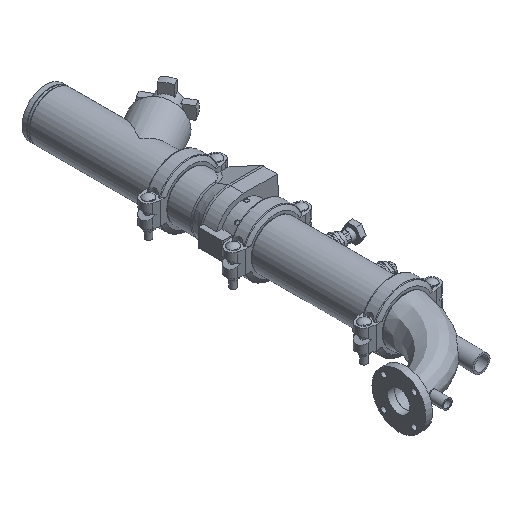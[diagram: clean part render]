
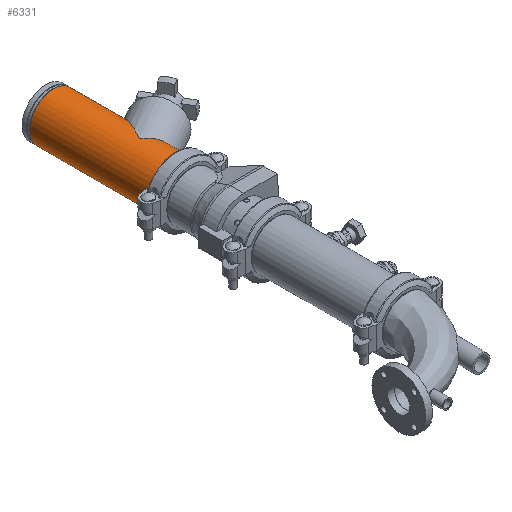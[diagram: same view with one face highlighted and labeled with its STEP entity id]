
A CAD part, isometric view. The second image highlights one B-rep face of the part: STEP entity #6331.
In plain terms, the highlighted cylindrical face has radius 84.138 mm (diameter 168.275 mm), a full revolution.
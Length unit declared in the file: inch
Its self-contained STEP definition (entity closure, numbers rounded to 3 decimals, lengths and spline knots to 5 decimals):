
#129=ELLIPSE('',#6907,6.625,3.3125);
#130=ELLIPSE('',#6908,3.82495,3.3125);
#131=ELLIPSE('',#6911,3.82495,3.3125);
#132=ELLIPSE('',#6912,6.625,3.3125);
#219=LINE('',#9719,#684);
#220=LINE('',#9725,#685);
#684=VECTOR('',#7780,3.3125);
#685=VECTOR('',#7785,3.3125);
#1120=CYLINDRICAL_SURFACE('',#6904,3.3125);
#1327=FACE_OUTER_BOUND('',#1684,.T.);
#1684=EDGE_LOOP('',(#4087,#4088,#4089,#4090,#4091,#4092,#4093,#4094,#4095,
#4096,#4097,#4098));
#2114=CIRCLE('',#6905,3.3125);
#2115=CIRCLE('',#6906,3.3125);
#2116=CIRCLE('',#6909,3.3125);
#2117=CIRCLE('',#6910,3.3125);
#2487=VERTEX_POINT('',#9714);
#2488=VERTEX_POINT('',#9715);
#2489=VERTEX_POINT('',#9718);
#2490=VERTEX_POINT('',#9720);
#2491=VERTEX_POINT('',#9722);
#2492=VERTEX_POINT('',#9724);
#2493=VERTEX_POINT('',#9726);
#2494=VERTEX_POINT('',#9729);
#3122=EDGE_CURVE('',#2487,#2488,#2114,.T.);
#3123=EDGE_CURVE('',#2488,#2487,#2115,.T.);
#3124=EDGE_CURVE('',#2488,#2489,#219,.T.);
#3125=EDGE_CURVE('',#2489,#2490,#129,.T.);
#3126=EDGE_CURVE('',#2490,#2491,#130,.T.);
#3127=EDGE_CURVE('',#2491,#2492,#220,.T.);
#3128=EDGE_CURVE('',#2492,#2493,#2116,.T.);
#3129=EDGE_CURVE('',#2493,#2492,#2117,.T.);
#3130=EDGE_CURVE('',#2491,#2494,#131,.T.);
#3131=EDGE_CURVE('',#2494,#2489,#132,.T.);
#4087=ORIENTED_EDGE('',*,*,#3122,.F.);
#4088=ORIENTED_EDGE('',*,*,#3123,.F.);
#4089=ORIENTED_EDGE('',*,*,#3124,.T.);
#4090=ORIENTED_EDGE('',*,*,#3125,.T.);
#4091=ORIENTED_EDGE('',*,*,#3126,.T.);
#4092=ORIENTED_EDGE('',*,*,#3127,.T.);
#4093=ORIENTED_EDGE('',*,*,#3128,.T.);
#4094=ORIENTED_EDGE('',*,*,#3129,.T.);
#4095=ORIENTED_EDGE('',*,*,#3127,.F.);
#4096=ORIENTED_EDGE('',*,*,#3130,.T.);
#4097=ORIENTED_EDGE('',*,*,#3131,.T.);
#4098=ORIENTED_EDGE('',*,*,#3124,.F.);
#6331=ADVANCED_FACE('',(#1327),#1120,.T.);
#6904=AXIS2_PLACEMENT_3D('',#9713,#7774,#7775);
#6905=AXIS2_PLACEMENT_3D('',#9716,#7776,#7777);
#6906=AXIS2_PLACEMENT_3D('',#9717,#7778,#7779);
#6907=AXIS2_PLACEMENT_3D('',#9721,#7781,#7782);
#6908=AXIS2_PLACEMENT_3D('',#9723,#7783,#7784);
#6909=AXIS2_PLACEMENT_3D('',#9727,#7786,#7787);
#6910=AXIS2_PLACEMENT_3D('',#9728,#7788,#7789);
#6911=AXIS2_PLACEMENT_3D('',#9730,#7790,#7791);
#6912=AXIS2_PLACEMENT_3D('',#9731,#7792,#7793);
#7774=DIRECTION('center_axis',(1.,0.,0.));
#7775=DIRECTION('ref_axis',(0.,1.,0.));
#7776=DIRECTION('center_axis',(1.,0.,0.));
#7777=DIRECTION('ref_axis',(0.,0.,-1.));
#7778=DIRECTION('center_axis',(1.,0.,0.));
#7779=DIRECTION('ref_axis',(0.,0.,-1.));
#7780=DIRECTION('',(-1.,0.,0.));
#7781=DIRECTION('center_axis',(0.5,0.866,0.));
#7782=DIRECTION('ref_axis',(-0.866,0.5,0.));
#7783=DIRECTION('center_axis',(-0.866,0.5,0.));
#7784=DIRECTION('ref_axis',(-0.5,-0.866,0.));
#7785=DIRECTION('',(-1.,0.,0.));
#7786=DIRECTION('center_axis',(1.,0.,0.));
#7787=DIRECTION('ref_axis',(0.,0.,-1.));
#7788=DIRECTION('center_axis',(1.,0.,0.));
#7789=DIRECTION('ref_axis',(0.,0.,-1.));
#7790=DIRECTION('center_axis',(-0.866,0.5,0.));
#7791=DIRECTION('ref_axis',(-0.5,-0.866,0.));
#7792=DIRECTION('center_axis',(0.5,0.866,0.));
#7793=DIRECTION('ref_axis',(-0.866,0.5,0.));
#9713=CARTESIAN_POINT('Origin',(0.,0.,
0.));
#9714=CARTESIAN_POINT('',(8.44,3.3125,0.));
#9715=CARTESIAN_POINT('',(8.44,-3.3125,0.));
#9716=CARTESIAN_POINT('Origin',(8.44,0.,0.));
#9717=CARTESIAN_POINT('Origin',(8.44,0.,0.));
#9718=CARTESIAN_POINT('',(2.15155,-3.3125,0.));
#9719=CARTESIAN_POINT('',(0.,-3.3125,0.));
#9720=CARTESIAN_POINT('',(-3.58586,0.,-3.3125));
#9721=CARTESIAN_POINT('Origin',(-3.58586,0.,
0.));
#9722=CARTESIAN_POINT('',(-5.49834,-3.3125,0.));
#9723=CARTESIAN_POINT('Origin',(-3.58586,0.,
0.));
#9724=CARTESIAN_POINT('',(-8.44,-3.3125,0.));
#9725=CARTESIAN_POINT('',(0.,-3.3125,0.));
#9726=CARTESIAN_POINT('',(-8.44,3.3125,0.));
#9727=CARTESIAN_POINT('Origin',(-8.44,0.,0.));
#9728=CARTESIAN_POINT('Origin',(-8.44,0.,0.));
#9729=CARTESIAN_POINT('',(-3.58586,0.,3.3125));
#9730=CARTESIAN_POINT('Origin',(-3.58586,0.,
0.));
#9731=CARTESIAN_POINT('Origin',(-3.58586,0.,
0.));
